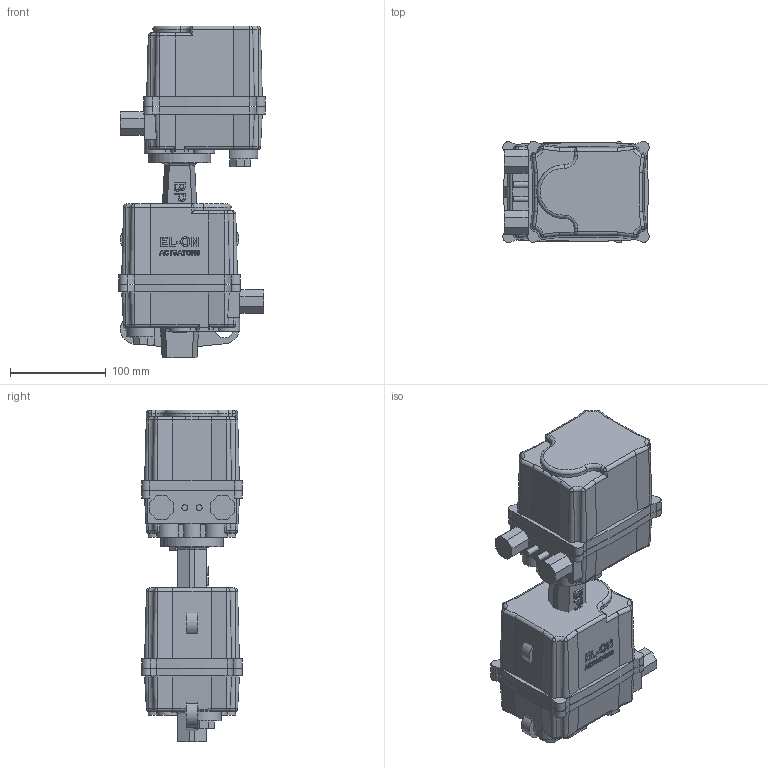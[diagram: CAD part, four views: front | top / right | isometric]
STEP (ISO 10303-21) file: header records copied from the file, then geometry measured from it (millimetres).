
FILE_DESCRIPTION( ( 'Unknown' ), '1' );
FILE_NAME( 'R:/ECCUA/ROOTSI BPS 3D vidinad/Poordklapid Wafer type/Butterfly valve(wafer) with electric actuator BPS/STEP formaat/BPS 2303050E butterfly valve DN50.stp', 'Unknown', ( 'Unknown' ), ( 'Unknown' ), 'PSStep 10.1', 'Unknown', ' ' );
FILE_SCHEMA( ( 'AUTOMOTIVE_DESIGN { 1 0 10303 214 1 1 1 1 }' ) );
Length unit declared in the file: millimetre
Products named in the file (4): Assem1; Butterfly valve wafer type DN50 BPS var2; BPS 8005058 electric actuator DN40-100
Bounding box: 152.99 x 105.49 x 347 mm (x, y, z)
Volume: 3793305.2 mm3; surface area: 369775.1 mm2
Topology: 6 solids, 6 shells, 1128 faces, 2956 edges, 1908 vertices
Faces by surface type: plane 394, extrusion 274, cylinder 266, cone 84, bspline 72, torus 38
Full cylindrical faces by diameter (mm): 4.134 x16, 4.917 x8, 6 x4, 6.647 x8, 7 x8, 50 x2, 65 x2, 83 x4, 95 x2
Entity records: 29382 total; most frequent: CARTESIAN_POINT 11724, ORIENTED_EDGE 2762, DIRECTION 2372, EDGE_CURVE 1381, VERTEX_POINT 933, VECTOR 874, AXIS2_PLACEMENT_3D 749, LINE 737
